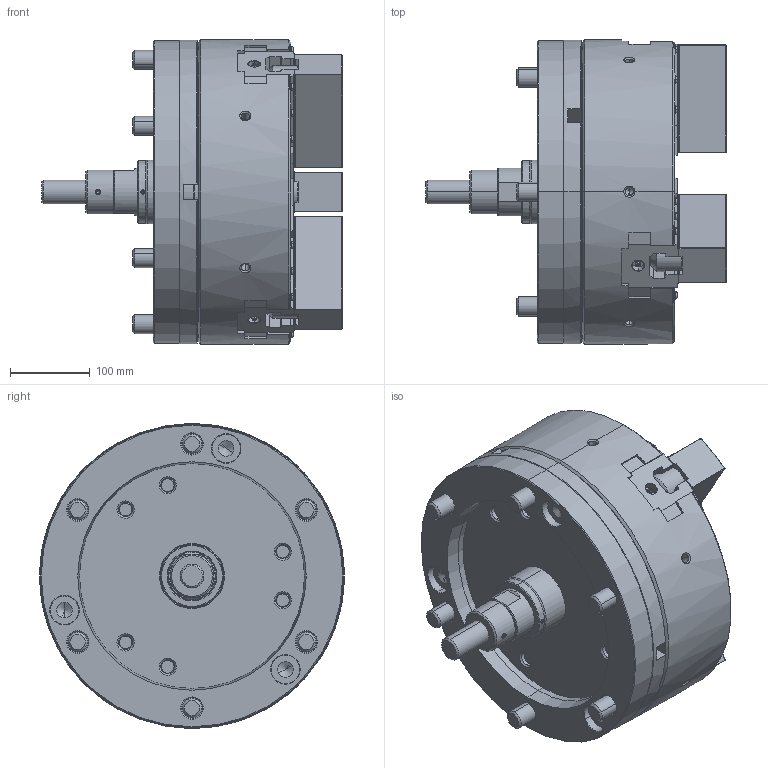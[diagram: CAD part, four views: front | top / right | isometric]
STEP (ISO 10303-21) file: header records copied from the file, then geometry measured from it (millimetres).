
FILE_DESCRIPTION (( 'STEP AP214' ), '1' );
FILE_NAME ('DT1_NV15C15_OUTSIDE_VIEW_HOL.STEP', '2026-03-24T01:50:17', ( '' ), ( '' ), 'SwSTEP 2.0', 'SolidWorks 2022', '' );
FILE_SCHEMA (( 'AUTOMOTIVE_DESIGN' ));
Length unit declared in the file: millimetre
Products named in the file (18): DT1_NV15C15_CAP^DT1_NV15C1500; DT1_NV15C15_DN^DT1_NV15C1500; DT1_NV15C15_S38^DT1_NV15C1500_円筒用; DT1_NV15C15_M20x110^DT1_NV15C1500; DT1_NV15C15_M20x55^DT1_NV15C1500; DT1_NV15C15_ORING^DT1_NV15C1500; Copy of 61P321208^DT1_NV15C1500; DT1_NV15C15_COVER^DT1_NV15C1500; DT1_NV15C15_BP^DT1_NV15C1500; DT1_NV15C15_P80^DT1_NV15C1500_円筒用; DT1_NV15C15_SOFTJAW^DT1_NV15C1500; DT1_NV15C15_BASE^DT1_NV15C1500; DT1_NV15C15_DRAWSCREW^DT1_NV15C1500; DT1_NV15C15_M6x12^DT1_NV15C1500; DT1_NV15C15_COVERFOOTER^DT1_NV15C1500; DT1_NV15C15_S24^DT1_NV15C1500_円筒用; DT1_NV15C15_TNUT^DT1_NV15C1500; DT1_NV15C15_OUTSIDE_VIEW_HOL
Assembly tree (46 placements, depth 2):
  DT1_NV15C15_OUTSIDE_VIEW_HOL
    DT1_NV15C15_SOFTJAW^DT1_NV15C1500  x3
    DT1_NV15C15_TNUT^DT1_NV15C1500  x6
    DT1_NV15C15_COVER^DT1_NV15C1500
    DT1_NV15C15_DRAWSCREW^DT1_NV15C1500
    Copy of 61P321208^DT1_NV15C1500
    DT1_NV15C15_COVERFOOTER^DT1_NV15C1500
    DT1_NV15C15_DN^DT1_NV15C1500
    DT1_NV15C15_BP^DT1_NV15C1500
    DT1_NV15C15_BASE^DT1_NV15C1500
    DT1_NV15C15_M6x12^DT1_NV15C1500  x6
    DT1_NV15C15_M20x55^DT1_NV15C1500  x6
    DT1_NV15C15_M20x110^DT1_NV15C1500  x6
    DT1_NV15C15_S24^DT1_NV15C1500_円筒用
    DT1_NV15C15_S38^DT1_NV15C1500_円筒用
    DT1_NV15C15_P80^DT1_NV15C1500_円筒用
    DT1_NV15C15_CAP^DT1_NV15C1500  x6
    DT1_NV15C15_ORING^DT1_NV15C1500  x3
Bounding box: 375.44 x 381 x 381 mm (x, y, z)
Volume: 18632106.7 mm3; surface area: 1498269.6 mm2
Topology: 46 solids, 76 shells, 6717 faces, 18516 edges, 11943 vertices
Faces by surface type: plane 4372, cylinder 1171, cone 874, torus 162, bspline 132, sphere 6
Entity records: 170485 total; most frequent: CARTESIAN_POINT 43959, ORIENTED_EDGE 27504, DIRECTION 23577, EDGE_CURVE 13752, LINE 9461, VECTOR 9461, VERTEX_POINT 8939, AXIS2_PLACEMENT_3D 7058
